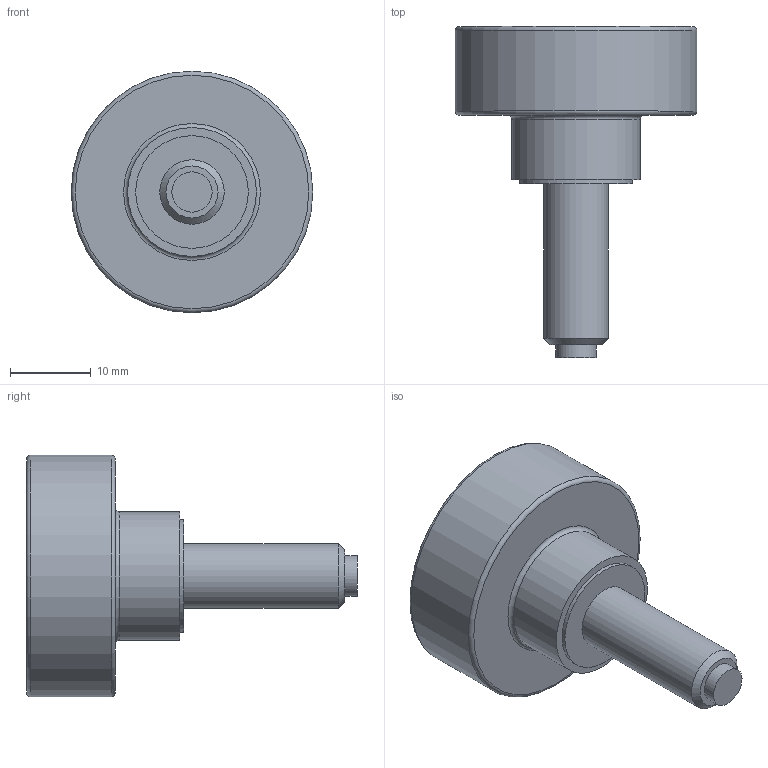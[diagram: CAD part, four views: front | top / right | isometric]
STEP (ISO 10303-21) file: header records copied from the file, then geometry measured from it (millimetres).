
FILE_DESCRIPTION( ( 'STEP AP203' ), '1' );
FILE_NAME( 'C:/Temp/Ganter_Step_05_03_2020/data/2_2/gn_421_10/Hollow knurled knob, with tip GN 421.10-M8-20-KU.stp', '2020-03-05T12:25:34', ( 'License CC BY-ND 4.0' ), ( 'CADENAS' ), ' ', 'PARTsolutions', ' ' );
FILE_SCHEMA( ( 'CONFIG_CONTROL_DESIGN' ) );
Length unit declared in the file: millimetre
Products named in the file (1): _Hollow knurled knob, with tip GN 421.10-M8-20-KU
Bounding box: 30 x 41.1 x 30 mm (x, y, z)
Volume: 6797.4 mm3; surface area: 4007 mm2
Topology: 1 solids, 1 shells, 19 faces, 30 edges, 19 vertices
Faces by surface type: plane 8, cylinder 7, torus 3, cone 1
Full cylindrical faces by diameter (mm): 5 x1, 8 x1, 12 x1, 14 x1, 16 x1, 26 x1, 30 x1
Entity records: 418 total; most frequent: DIRECTION 76, CARTESIAN_POINT 56, AXIS2_PLACEMENT_3D 38, EDGE_LOOP 36, ORIENTED_EDGE 36, FACE_OUTER_BOUND 29, ADVANCED_FACE 19, EDGE_CURVE 18
